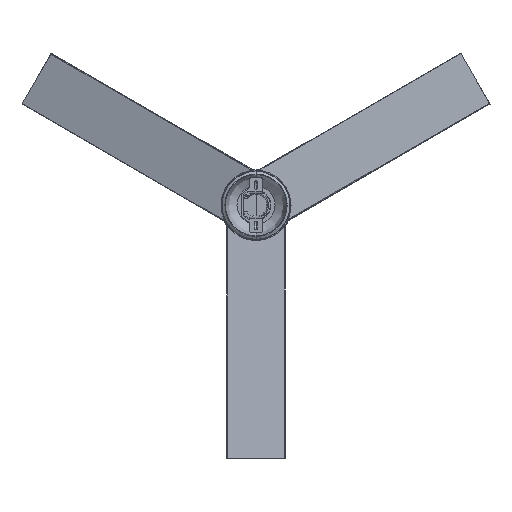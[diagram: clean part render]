
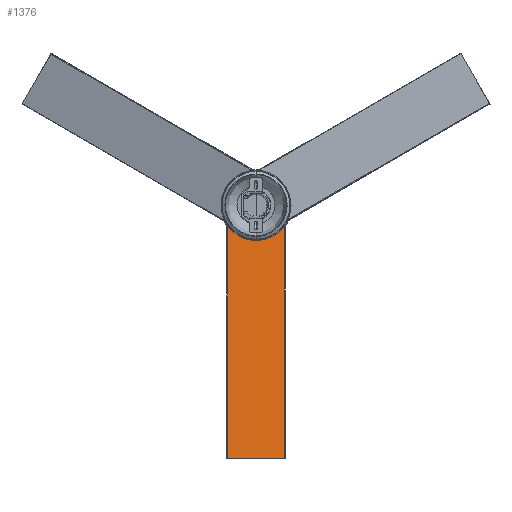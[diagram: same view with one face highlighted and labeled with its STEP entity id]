
A CAD part, top view. The second image highlights one B-rep face of the part: STEP entity #1376.
In plain terms, the highlighted planar face has unit normal (0.225, 0, 0.974).
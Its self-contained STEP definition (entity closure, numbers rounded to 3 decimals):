
#111=FACE_BOUND('',#1885,.T.);
#112=FACE_BOUND('',#1886,.T.);
#113=FACE_BOUND('',#1887,.T.);
#1376=ADVANCED_FACE('',(#1624,#111,#112,#113),#5337,.T.);
#1624=FACE_OUTER_BOUND('',#1884,.T.);
#1884=EDGE_LOOP('',(#2330,#2331,#2332,#2333,#2334,#2335));
#1885=EDGE_LOOP('',(#2336,#2337));
#1886=EDGE_LOOP('',(#2338,#2339));
#1887=EDGE_LOOP('',(#2340,#2341));
#2330=ORIENTED_EDGE('',*,*,#3544,.T.);
#2331=ORIENTED_EDGE('',*,*,#3545,.T.);
#2332=ORIENTED_EDGE('',*,*,#3546,.T.);
#2333=ORIENTED_EDGE('',*,*,#3525,.T.);
#2334=ORIENTED_EDGE('',*,*,#3547,.T.);
#2335=ORIENTED_EDGE('',*,*,#3548,.T.);
#2336=ORIENTED_EDGE('',*,*,#3541,.T.);
#2337=ORIENTED_EDGE('',*,*,#3542,.T.);
#2338=ORIENTED_EDGE('',*,*,#3535,.T.);
#2339=ORIENTED_EDGE('',*,*,#3536,.T.);
#2340=ORIENTED_EDGE('',*,*,#3529,.T.);
#2341=ORIENTED_EDGE('',*,*,#3530,.T.);
#3525=EDGE_CURVE('',#4974,#4976,#4135,.T.);
#3529=EDGE_CURVE('',#4978,#4980,#4137,.T.);
#3530=EDGE_CURVE('',#4980,#4978,#4138,.T.);
#3535=EDGE_CURVE('',#4982,#4984,#4141,.T.);
#3536=EDGE_CURVE('',#4984,#4982,#4142,.T.);
#3541=EDGE_CURVE('',#4986,#4988,#4145,.T.);
#3542=EDGE_CURVE('',#4988,#4986,#4146,.T.);
#3544=EDGE_CURVE('',#4989,#4990,#4538,.T.);
#3545=EDGE_CURVE('',#4990,#4991,#4539,.T.);
#3546=EDGE_CURVE('',#4991,#4974,#4540,.T.);
#3547=EDGE_CURVE('',#4976,#4992,#4541,.T.);
#3548=EDGE_CURVE('',#4992,#4989,#4542,.T.);
#4135=TRIMMED_CURVE($,#4329,(#7038),(#7039),.T.,.CARTESIAN.);
#4137=TRIMMED_CURVE($,#4331,(#7048),(#7049),.T.,.CARTESIAN.);
#4138=TRIMMED_CURVE($,#4332,(#7051),(#7052),.T.,.CARTESIAN.);
#4141=TRIMMED_CURVE($,#4335,(#7064),(#7065),.T.,.CARTESIAN.);
#4142=TRIMMED_CURVE($,#4336,(#7067),(#7068),.T.,.CARTESIAN.);
#4145=TRIMMED_CURVE($,#4339,(#7080),(#7081),.T.,.CARTESIAN.);
#4146=TRIMMED_CURVE($,#4340,(#7083),(#7084),.T.,.CARTESIAN.);
#4329=CIRCLE('',#5724,53.78);
#4331=CIRCLE('',#5726,2.5);
#4332=CIRCLE('',#5727,2.5);
#4335=CIRCLE('',#5730,2.5);
#4336=CIRCLE('',#5731,2.5);
#4339=CIRCLE('',#5734,2.5);
#4340=CIRCLE('',#5735,2.5);
#4538=B_SPLINE_CURVE_WITH_KNOTS('',1,(#7088,#7089),.UNSPECIFIED.,.F.,.F.,
(2,2),(0.,123.),.UNSPECIFIED.);
#4539=B_SPLINE_CURVE_WITH_KNOTS('',1,(#7090,#7091),.UNSPECIFIED.,.F.,.F.,
(2,2),(0.,499.99),.UNSPECIFIED.);
#4540=B_SPLINE_CURVE_WITH_KNOTS('',1,(#7092,#7093),.UNSPECIFIED.,.F.,.F.,
(2,2),(0.,16.315),.UNSPECIFIED.);
#4541=B_SPLINE_CURVE_WITH_KNOTS('',1,(#7094,#7095),.UNSPECIFIED.,.F.,.F.,
(2,2),(0.,14.435),.UNSPECIFIED.);
#4542=B_SPLINE_CURVE_WITH_KNOTS('',1,(#7096,#7097),.UNSPECIFIED.,.F.,.F.,
(2,2),(0.,499.99),.UNSPECIFIED.);
#4974=VERTEX_POINT('',#6999);
#4976=VERTEX_POINT('',#7001);
#4978=VERTEX_POINT('',#7003);
#4980=VERTEX_POINT('',#7005);
#4982=VERTEX_POINT('',#7007);
#4984=VERTEX_POINT('',#7009);
#4986=VERTEX_POINT('',#7011);
#4988=VERTEX_POINT('',#7013);
#4989=VERTEX_POINT('',#7014);
#4990=VERTEX_POINT('',#7015);
#4991=VERTEX_POINT('',#7016);
#4992=VERTEX_POINT('',#7017);
#5337=PLANE('',#5712);
#5712=AXIS2_PLACEMENT_3D('',#6987,#6168,$);
#5724=AXIS2_PLACEMENT_3D($,#7037,#6181,#6182);
#5726=AXIS2_PLACEMENT_3D($,#7047,#6185,#6186);
#5727=AXIS2_PLACEMENT_3D($,#7050,#6187,#6188);
#5730=AXIS2_PLACEMENT_3D($,#7063,#6193,#6194);
#5731=AXIS2_PLACEMENT_3D($,#7066,#6195,#6196);
#5734=AXIS2_PLACEMENT_3D($,#7079,#6201,#6202);
#5735=AXIS2_PLACEMENT_3D($,#7082,#6203,#6204);
#6168=DIRECTION('',(0.225,0.,0.974));
#6181=DIRECTION('',(-0.225,0.,-0.974));
#6182=DIRECTION('',(0.836,-0.514,-0.193));
#6185=DIRECTION('',(-0.225,0.,-0.974));
#6186=DIRECTION('',(-0.974,0.,0.225));
#6187=DIRECTION('',(-0.225,0.,-0.974));
#6188=DIRECTION('',(0.974,0.,-0.225));
#6193=DIRECTION('',(-0.225,0.,-0.974));
#6194=DIRECTION('',(-0.974,0.,0.225));
#6195=DIRECTION('',(-0.225,0.,-0.974));
#6196=DIRECTION('',(0.974,0.,-0.225));
#6201=DIRECTION('',(-0.225,0.,-0.974));
#6202=DIRECTION('',(-0.974,0.,0.225));
#6203=DIRECTION('',(-0.225,0.,-0.974));
#6204=DIRECTION('',(0.974,0.,-0.225));
#6987=CARTESIAN_POINT('',(1626.208,-6300.929,24.015));
#6999=CARTESIAN_POINT('',(1598.186,-5750.821,30.485));
#7001=CARTESIAN_POINT('',(1508.301,-5750.821,51.236));
#7003=CARTESIAN_POINT('',(1505.426,-5768.106,51.9));
#7005=CARTESIAN_POINT('',(1510.298,-5768.106,50.775));
#7007=CARTESIAN_POINT('',(1550.549,-5787.833,41.483));
#7009=CARTESIAN_POINT('',(1555.421,-5787.833,40.358));
#7011=CARTESIAN_POINT('',(1595.547,-5767.984,31.094));
#7013=CARTESIAN_POINT('',(1600.419,-5767.984,29.969));
#7014=CARTESIAN_POINT('',(1494.235,-6250.81,54.484));
#7015=CARTESIAN_POINT('',(1614.083,-6250.81,26.815));
#7016=CARTESIAN_POINT('',(1614.083,-5750.821,26.815));
#7017=CARTESIAN_POINT('',(1494.235,-5750.821,54.484));
#7037=CARTESIAN_POINT('',(1553.243,-5723.166,40.861));
#7038=CARTESIAN_POINT('',(1598.186,-5750.821,30.485));
#7039=CARTESIAN_POINT('',(1508.301,-5750.821,51.236));
#7047=CARTESIAN_POINT('',(1507.862,-5768.106,51.338));
#7048=CARTESIAN_POINT('',(1505.426,-5768.106,51.9));
#7049=CARTESIAN_POINT('',(1510.298,-5768.106,50.775));
#7050=CARTESIAN_POINT('',(1507.862,-5768.106,51.338));
#7051=CARTESIAN_POINT('',(1510.298,-5768.106,50.775));
#7052=CARTESIAN_POINT('',(1505.426,-5768.106,51.9));
#7063=CARTESIAN_POINT('',(1552.985,-5787.833,40.92));
#7064=CARTESIAN_POINT('',(1550.549,-5787.833,41.483));
#7065=CARTESIAN_POINT('',(1555.421,-5787.833,40.358));
#7066=CARTESIAN_POINT('',(1552.985,-5787.833,40.92));
#7067=CARTESIAN_POINT('',(1555.421,-5787.833,40.358));
#7068=CARTESIAN_POINT('',(1550.549,-5787.833,41.483));
#7079=CARTESIAN_POINT('',(1597.983,-5767.984,30.532));
#7080=CARTESIAN_POINT('',(1595.547,-5767.984,31.094));
#7081=CARTESIAN_POINT('',(1600.419,-5767.984,29.969));
#7082=CARTESIAN_POINT('',(1597.983,-5767.984,30.532));
#7083=CARTESIAN_POINT('',(1600.419,-5767.984,29.969));
#7084=CARTESIAN_POINT('',(1595.547,-5767.984,31.094));
#7088=CARTESIAN_POINT('',(1494.235,-6250.81,54.484));
#7089=CARTESIAN_POINT('',(1614.083,-6250.81,26.815));
#7090=CARTESIAN_POINT('',(1614.083,-6250.81,26.815));
#7091=CARTESIAN_POINT('',(1614.083,-5750.821,26.815));
#7092=CARTESIAN_POINT('',(1614.083,-5750.821,26.815));
#7093=CARTESIAN_POINT('',(1598.186,-5750.821,30.485));
#7094=CARTESIAN_POINT('',(1508.301,-5750.821,51.236));
#7095=CARTESIAN_POINT('',(1494.235,-5750.821,54.484));
#7096=CARTESIAN_POINT('',(1494.235,-5750.821,54.484));
#7097=CARTESIAN_POINT('',(1494.235,-6250.81,54.484));
